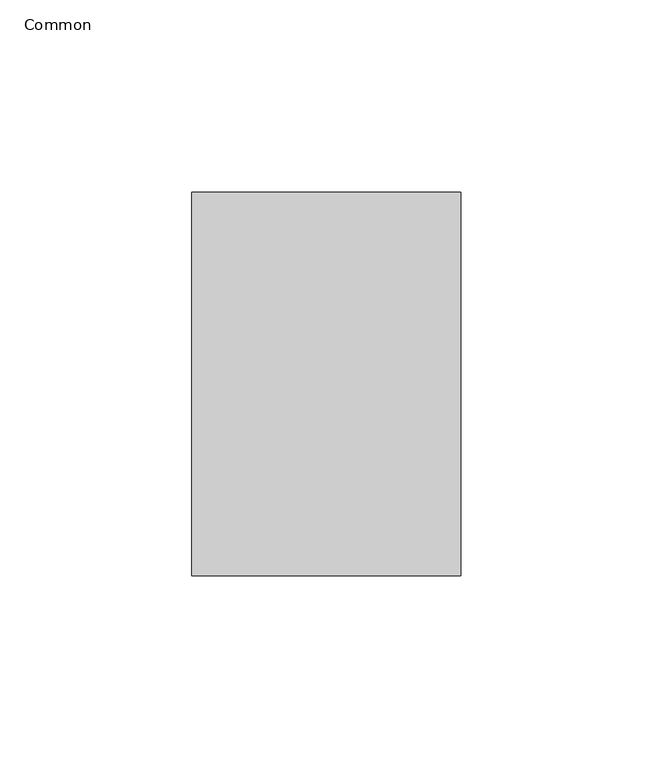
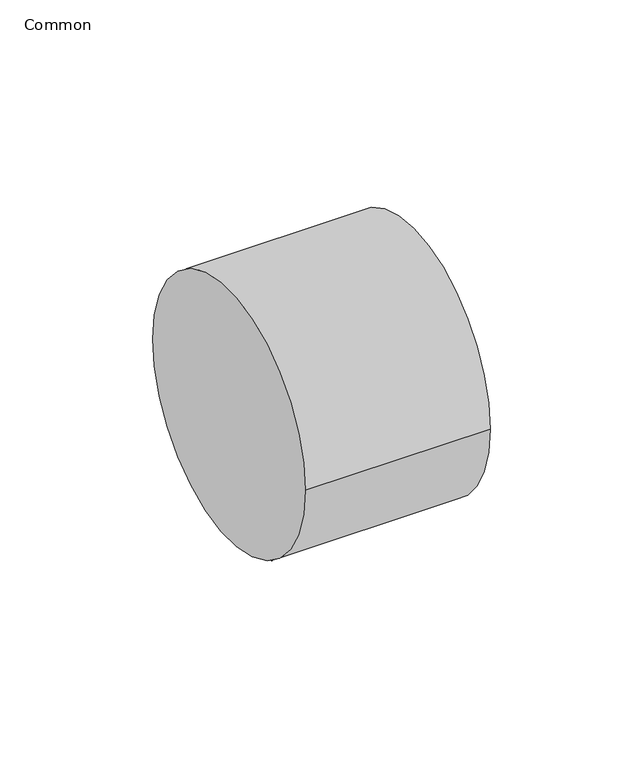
"""IFC4 building model written with IfcOpenShell, lengths in millimetres: pipe fitting geometry, 051_ソケット : Common."""

from ifc_helpers import new_model, si_unit, point, frame, origin, origin_2d, place, context, project, spatial, circle_curve, trimmed, segment, composite_curve, outline, extrude, source, transform, mapped, element, save


def common_d0e33cdb(model_context):
    return source(origin(), model_context, "Body", "SweptSolid", [
        extrude(outline(composite_curve([segment(trimmed(circle_curve(origin_2d(), 50.0), [point((-50.0, 0.0))], [point((50.0, 0.0))], False, "CARTESIAN"), True, "CONTINUOUS"), segment(trimmed(circle_curve(origin_2d(), 50.0), [point((50.0, 0.0))], [point((-50.0, 0.0))], False, "CARTESIAN"), True, "CONTINUOUS")], self_intersect=False)), frame((-35.0, 0.0, 0.0), z_axis=(1.0, 0.0, 0.0), x_axis=(0.0, 1.0, 0.0)), (0.0, 0.0, 1.0), 70.0),
    ])


if __name__ == "__main__":
    model = new_model("IFC4")
    model_context = context("Model", 3, world=origin())
    ifc_project = project(units=[si_unit("LENGTHUNIT", "METRE", prefix="MILLI")], contexts=[model_context])
    site = spatial("IfcSite", under=ifc_project)
    building = spatial("IfcBuilding", under=site)
    placement = place(None, origin())
    common_shape = common_d0e33cdb(model_context)
    element("IfcPipeFitting", 1, ObjectType="051_ソケット : Common", at=placement, inside=building, context=model_context, shape_type="MappedRepresentation", body=[
        mapped(common_shape, transform((0.0, 0.0, 0.0), x_axis=(1.0, 0.0, 0.0), y_axis=(0.0, 1.0, 0.0), z_axis=(0.0, 0.0, 1.0))),
    ])
    save(model, "model.ifc")
